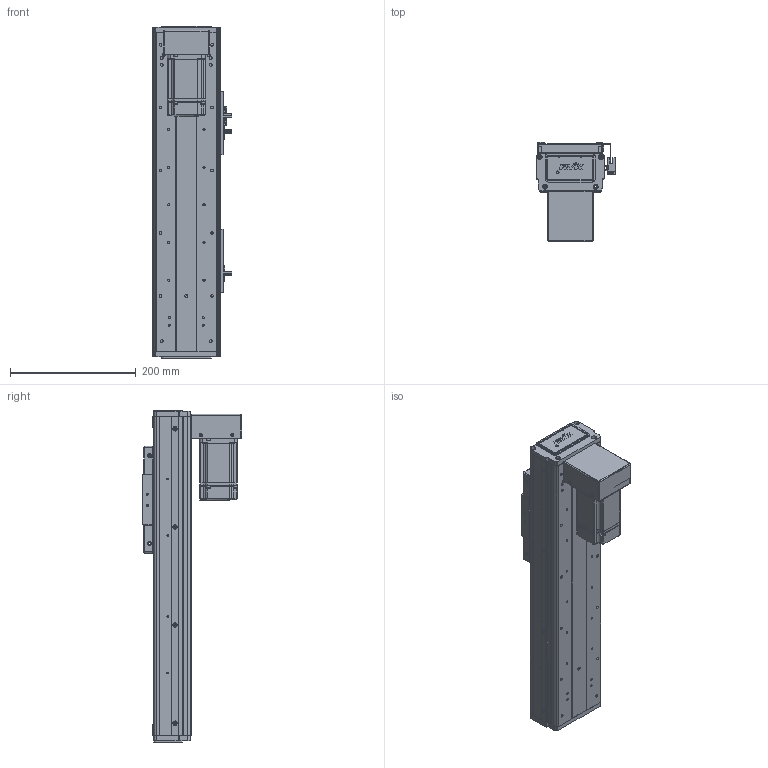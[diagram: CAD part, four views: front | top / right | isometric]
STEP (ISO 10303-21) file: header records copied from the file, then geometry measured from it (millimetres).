
FILE_DESCRIPTION (( 'STEP AP203' ), '1' );
FILE_NAME ('RY100FS-L1620-300-BK(15双轨).SLDASM_250.step', '2021-03-02T07:33:27', ( '盈信电脑' ), ( '东莞市道滘镇水果街19号' ), 'SwSTEP 2.0', 'SolidWorks 2012', '' );
FILE_SCHEMA (( 'CONFIG_CONTROL_DESIGN' ));
Length unit declared in the file: millimetre
Products named in the file (21): RY100FS-L1620-300-BK(15邧寢).SLDASM_250; 滅袉蝶18-15; 1; 蚥薯蝶紫輸; RY100FS-15邧寢狟殏萇儂欶; RY100FS-15双轨下折钢带安装板; RY100FS-双轨螺母座(16丝杆）; RY100FS-15邧寢狟殏萇儂啣; 覜茼ん672; RY100F-詩湍揤踡輸; RY100F-詩湍揤踡謫; 672嫖萇羲壽假蚾釱; RY80俋离覜茼え; RY100F-綴裔啣; 棠沺沭; RY100F-詩湍幗謫粣; RY100F-滅鳥裔啣; RY100FS-双轨铝滑块(上板）; RY100FS-300-BK15邧寢祥凄詩湍_250; RY100FS-300-BK15絳寢倰第奻裔啣_250; RY100FS-300-BK15絳寢倰第菁釱_250
Assembly tree (30 placements, depth 2):
  RY100FS-L1620-300-BK(15邧寢).SLDASM_250
    RY100FS-300-BK15絳寢倰第菁釱_250
    RY100FS-300-BK15絳寢倰第奻裔啣_250  x2
    RY100FS-300-BK15邧寢祥凄詩湍_250
    RY100FS-双轨铝滑块(上板）
    RY100F-滅鳥裔啣
    棠沺沭  x2
    RY100F-詩湍幗謫粣
    RY100F-詩湍揤踡謫  x2
    RY100F-綴裔啣  x2
    672嫖萇羲壽假蚾釱  x2
    RY80俋离覜茼え  x2
    覜茼ん672  x3
    RY100F-詩湍揤踡輸  x2
    RY100FS-双轨螺母座(16丝杆）
    RY100FS-15邧寢狟殏萇儂啣
    RY100FS-15邧寢狟殏萇儂欶
    蚥薯蝶紫輸
    RY100FS-15双轨下折钢带安装板
    滅袉蝶18-15  x2
    1
Bounding box: 126.2 x 158.5 x 529 mm (x, y, z)
Volume: 1672148.6 mm3; surface area: 663509.8 mm2
Topology: 30 solids, 30 shells, 2177 faces, 5892 edges, 3830 vertices
Faces by surface type: plane 1083, cylinder 926, cone 132, bspline 36
Entity records: 57800 total; most frequent: CARTESIAN_POINT 11686, DIRECTION 9163, ORIENTED_EDGE 9024, EDGE_CURVE 4512, AXIS2_PLACEMENT_3D 3203, VERTEX_POINT 2968, LINE 2757, VECTOR 2757
